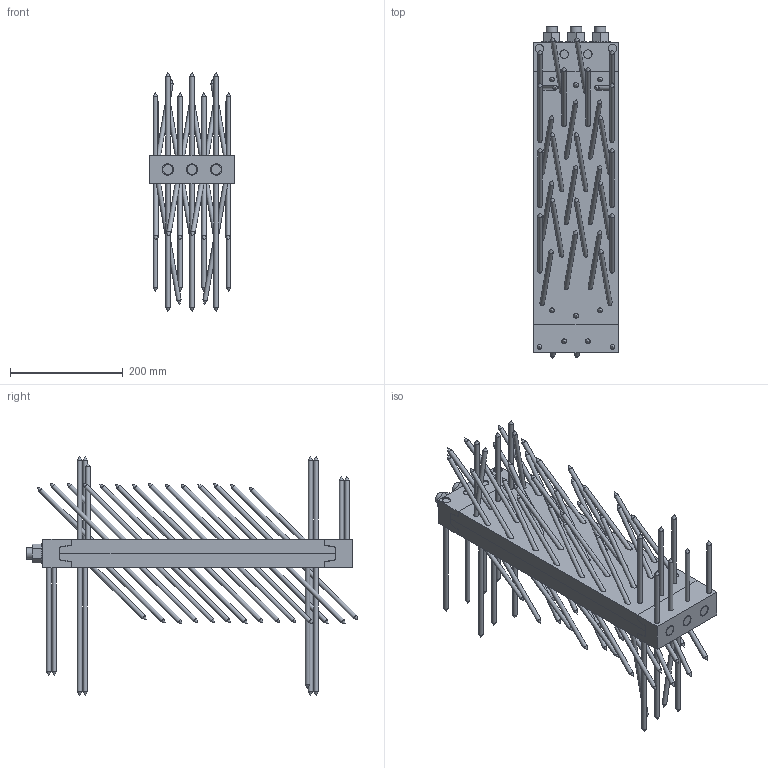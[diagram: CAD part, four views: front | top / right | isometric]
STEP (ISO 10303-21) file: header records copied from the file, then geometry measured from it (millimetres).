
FILE_DESCRIPTION(/* description */ ('Unknown'),/* implementation_level */ '2;1');
FILE_NAME(/* name */ 'MEGANT_550x150x50_Sichtbar',/* time_stamp */ '2020-05-06T08:22:22+02:00',/* author */ ('Unknown'),/* organization */ ('Unknown'),/* preprocessor_version */ 'ST-DEVELOPER v16.7',/* originating_system */ 'DEX',/* authorisation */ $);
FILE_SCHEMA (('AUTOMOTIVE_DESIGN {1 0 10303 214 3 1 1}'));
Length unit declared in the file: millimetre
Products named in the file (14): MEGANT_550x150x50_Sichtbar; Verbinderplatte_490x150x25_NT; SK_Schraube_8x240; Verbinderplatte_490x150x25; SK_Schraube_8x160; Verbinderplatte_490x150x25_HT; Spannbacke_oben_150x50x50_NT; Spannbacke_oben_150x50x50; Gewindestange_M20_L580; Mutter_M20; Beilagscheibe_M20; Spannbacke_unten_150x50x50_HT; Spannbacke_unten_150x50x50
Assembly tree (94 placements, depth 3):
  MEGANT_550x150x50_Sichtbar
    Verbinderplatte_490x150x25_NT
      SK_Schraube_8x240  x8
      Verbinderplatte_490x150x25
      SK_Schraube_8x160  x28
    Verbinderplatte_490x150x25_HT
      SK_Schraube_8x160  x36
      Verbinderplatte_490x150x25
    Spannbacke_oben_150x50x50_NT
      SK_Schraube_8x240  x4
      Spannbacke_oben_150x50x50
    Gewindestange_M20_L580  x3
      Gewindestange_M20_L580
      Mutter_M20
      Beilagscheibe_M20
    Spannbacke_unten_150x50x50_HT
      Spannbacke_unten_150x50x50
      SK_Schraube_8x160  x4
Bounding box: 150 x 589.49 x 424 mm (x, y, z)
Volume: 4398570.2 mm3; surface area: 1057285.1 mm2
Topology: 93 solids, 93 shells, 885 faces, 2039 edges, 1273 vertices
Faces by surface type: cylinder 346, plane 299, cone 240
Full cylindrical faces by diameter (mm): 8 x80, 8.5 x80, 15 x160, 17.294 x6, 20 x3, 21 x6, 37 x3
Entity records: 8338 total; most frequent: DIRECTION 1426, CARTESIAN_POINT 1251, ORIENTED_EDGE 984, AXIS2_PLACEMENT_3D 573, FACE_BOUND 526, EDGE_LOOP 524, EDGE_CURVE 492, VERTEX_POINT 398
